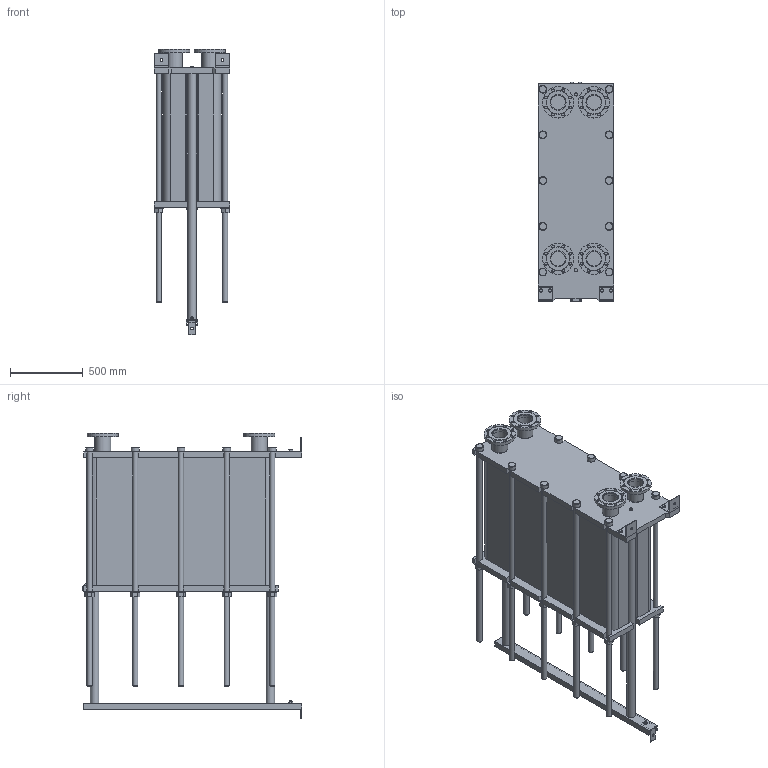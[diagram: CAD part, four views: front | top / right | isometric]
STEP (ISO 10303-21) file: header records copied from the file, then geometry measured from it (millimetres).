
FILE_DESCRIPTION(/* description */ (''),/* implementation_level */ '2;1');
FILE_NAME(/* name */ 'C:\Users\zhuro\Desktop\ENCO\TO\ЭН-04\ЭН-0,5-04-255-1.stp',/* time_stamp */ '2022-06-06T11:07:03+03:00',/* author */ ('zhuro'),/* organization */ (''),/* preprocessor_version */ 'ST-DEVELOPER v18.1',/* originating_system */ 'Autodesk Inventor 2022',/* authorisation */ '');
FILE_SCHEMA (('AUTOMOTIVE_DESIGN { 1 0 10303 214 3 1 1 }'));
Length unit declared in the file: millimetre
Products named in the file (1): ЭН-0,5-04-255-1
Bounding box: 520 x 1510 x 1967.5 mm (x, y, z)
Volume: 519210146.7 mm3; surface area: 11763726.6 mm2
Topology: 45 solids, 45 shells, 668 faces, 1611 edges, 1048 vertices
Faces by surface type: plane 457, cylinder 166, cone 39, torus 6
Full cylindrical faces by diameter (mm): 8 x4, 10 x2, 16 x8, 18 x35, 36 x25, 40 x2, 42 x1, 45 x4, 54 x10, 57 x2, 60 x10, 68 x2, 100 x4, 110 x8, 215 x4
Entity records: 23607 total; most frequent: CARTESIAN_POINT 7348, DIRECTION 3371, ORIENTED_EDGE 3142, EDGE_CURVE 1571, AXIS2_PLACEMENT_3D 1199, VERTEX_POINT 1044, LINE 973, VECTOR 973
